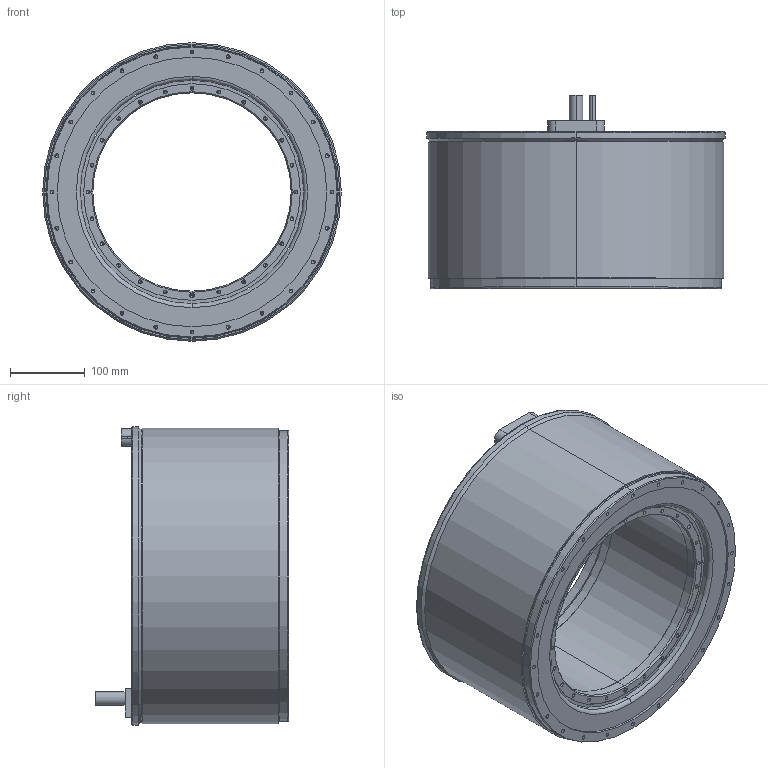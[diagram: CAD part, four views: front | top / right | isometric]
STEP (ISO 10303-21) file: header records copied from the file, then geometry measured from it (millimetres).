
FILE_DESCRIPTION (( 'STEP AP203' ), '1' );
FILE_NAME ('TM-2-AH-SC0(J0).STEP', '2023-06-06T02:06:00', ( '' ), ( '' ), 'SwSTEP 2.0', 'SolidWorks 2015', '' );
FILE_SCHEMA (( 'CONFIG_CONTROL_DESIGN' ));
Length unit declared in the file: millimetre
Products named in the file (3): TM-2-AH(J0)_Rotor; TM-2-AH-SC0(J0)_Stator; TM-2-AH-SC0(J0)
Assembly tree (2 placements, depth 2):
  TM-2-AH-SC0(J0)
    TM-2-AH-SC0(J0)_Stator
    TM-2-AH(J0)_Rotor
Bounding box: 399 x 259 x 399 mm (x, y, z)
Volume: 13324474.5 mm3; surface area: 930657.2 mm2
Topology: 2 solids, 2 shells, 553 faces, 1336 edges, 717 vertices
Faces by surface type: cylinder 253, cone 214, plane 74, torus 12
Entity records: 14977 total; most frequent: DIRECTION 2810, CARTESIAN_POINT 2417, ORIENTED_EDGE 2284, EDGE_CURVE 1142, AXIS2_PLACEMENT_3D 1110, VERTEX_POINT 717, EDGE_LOOP 681, VECTOR 590
